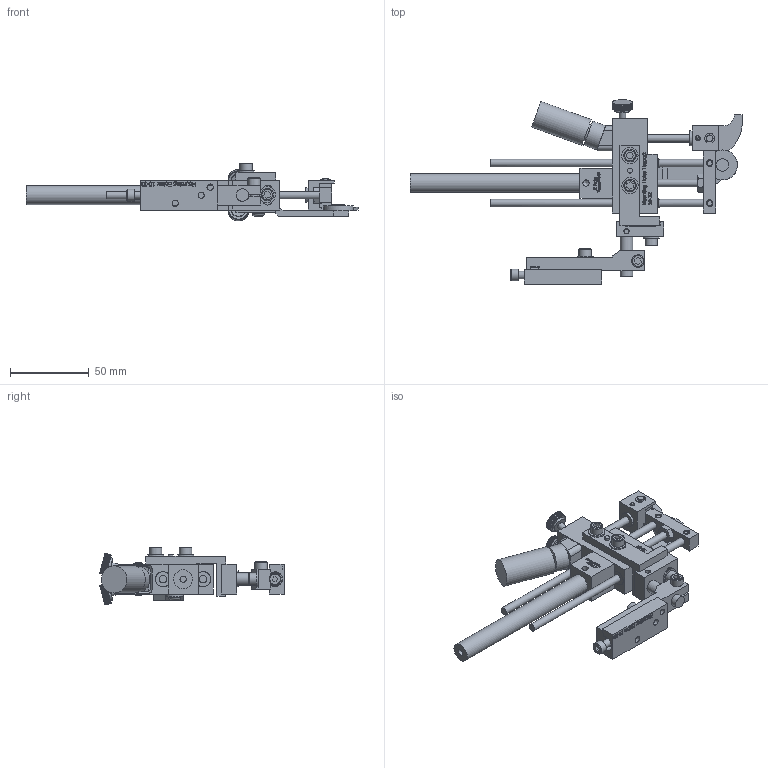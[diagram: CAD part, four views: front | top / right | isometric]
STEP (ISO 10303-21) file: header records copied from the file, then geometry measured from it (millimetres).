
FILE_DESCRIPTION((''),'2;1');
FILE_NAME('C:\Documents and Settings\Ron\My Documents\Inventor\Sprinter Drawing\Machines in Inventor\Model 44\Dot\1-eight\Ext Hd 1in\Brkt\Ret\Model 44 Ext HD 1in .125 dia dot Ret w brkt.stp','2009-01-29T14:39:03',('Ron'),(''),'Autodesk Inventor 2008','Autodesk Inventor 2008','');
FILE_SCHEMA(('AUTOMOTIVE_DESIGN { 1 0 10303 214 1 1 1 1 }'));
Length unit declared in the file: inch
Products named in the file (1): Model 44 Ext HD 1in .125 dia dot Ret w brkt
Bounding box: 210.85 x 117.12 x 36.82 mm (x, y, z)
Volume: 108906.1 mm3; surface area: 53716.3 mm2
Topology: 381 solids, 381 shells, 6203 faces, 15410 edges, 9531 vertices
Faces by surface type: plane 4356, bspline 1321, cylinder 471, cone 51, torus 4
Full cylindrical faces by diameter (mm): 3.112 x1, 3.175 x4, 3.302 x1, 3.962 x1, 4.064 x7, 4.166 x1, 4.699 x1, 4.75 x4, 4.775 x1, 4.826 x8, 5.08 x1, 5.156 x4, 5.207 x2, 5.41 x2, 6.096 x1, 6.299 x2, 7.239 x1, 7.62 x1, 7.925 x7, 7.938 x1, 8.128 x1, 9.017 x1, 9.398 x1, 9.525 x2, 10.312 x4, 10.922 x1, 11.036 x1, 11.938 x2, 14.478 x1, 16.256 x1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
Entity records: 197649 total; most frequent: CARTESIAN_POINT 54214, ORIENTED_EDGE 30356, DIRECTION 23588, EDGE_CURVE 15178, VECTOR 11360, LINE 11360, VERTEX_POINT 9461, EDGE_LOOP 6767
